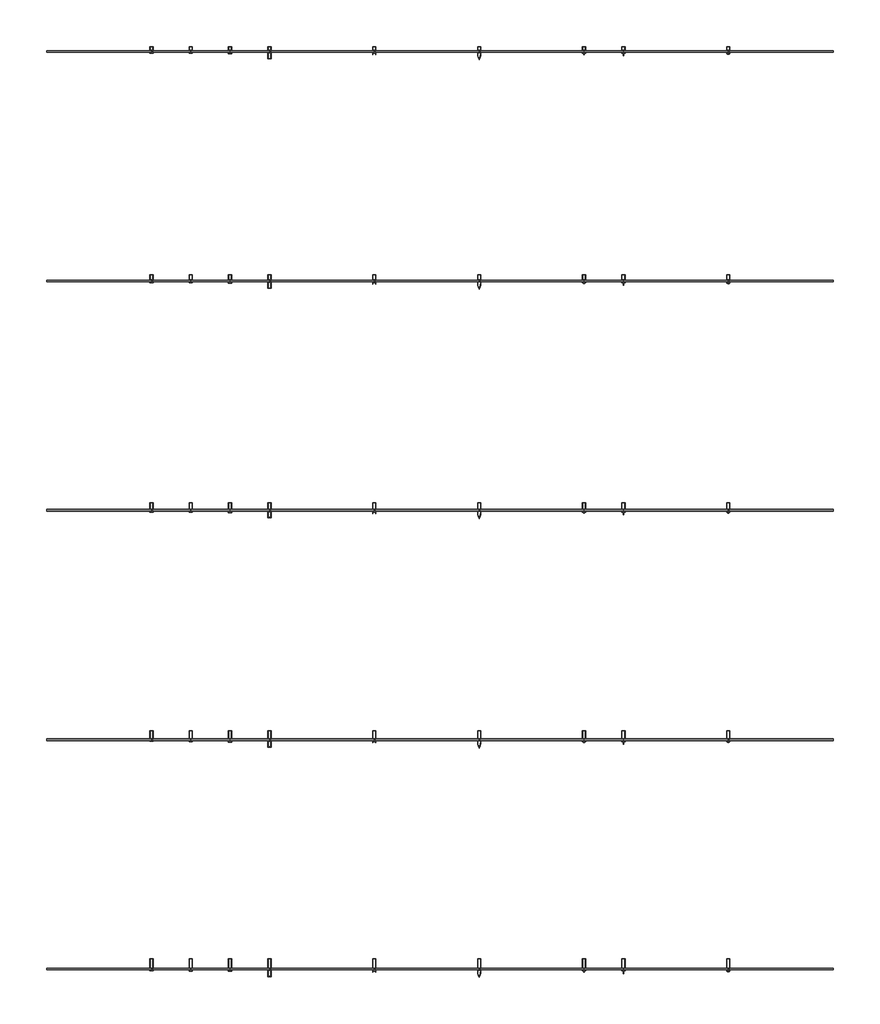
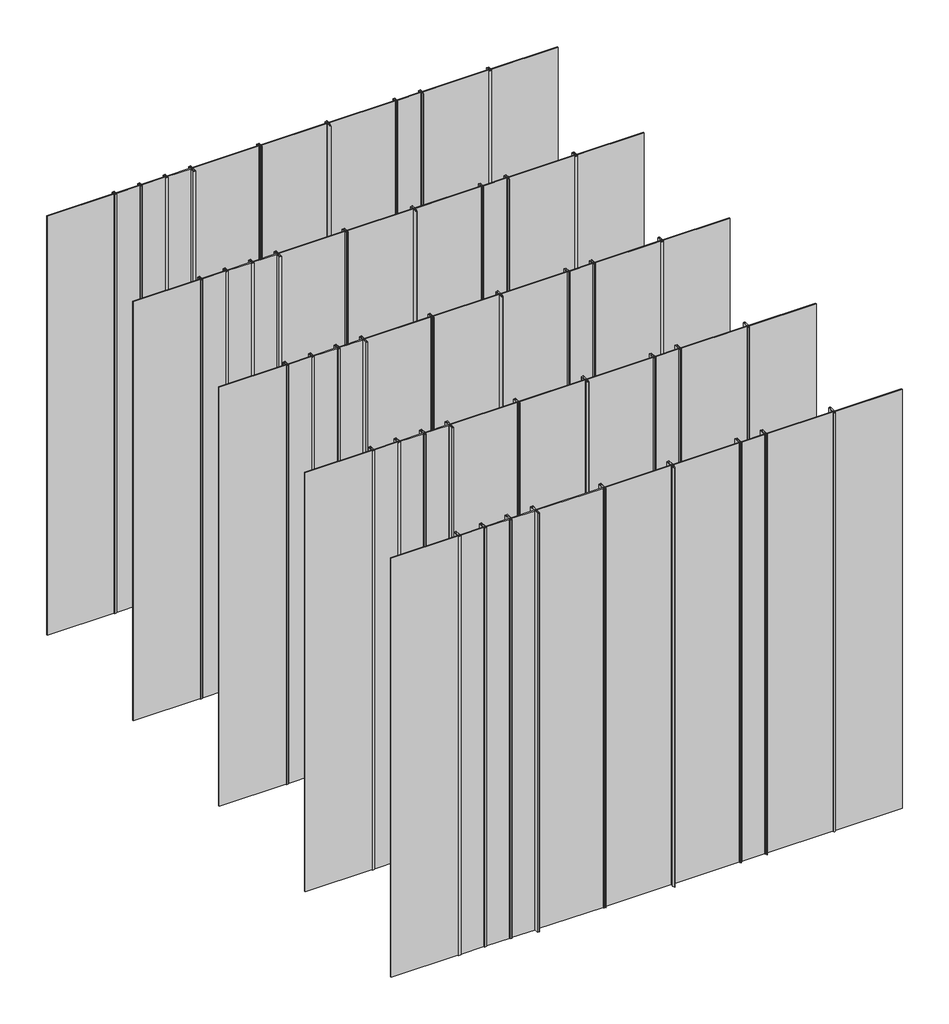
# One storey, part 2 of 4: 50 plates, 45 members.
"""IFC4 building model written with IfcOpenShell, lengths in millimetres."""

from ifc_helpers import new_model, si_unit, origin, place, context, project, spatial, transform, mapped, element, save
from components import rectangular_mullion_7e8ff3de, rectangular_mullion_d2667106, rectangular_mullion_8485e544, rectangular_mullion_a97a1aab, rectangular_mullion_f2acd600, rectangular_mullion_31d17d8e, rectangular_mullion_56021934, rectangular_mullion_2adb346b, rectangular_mullion_2d79f6ae, rectangular_mullion_000f3edf, rectangular_mullion_15fb7f8c, rectangular_mullion_f764ad4b, rectangular_mullion_f35b7cc4, rectangular_mullion_2c5b71e2, rectangular_mullion_228efdd4, rectangular_mullion_fecff039, rectangular_mullion_c5a7c21c, rectangular_mullion_2d95dfcb, rectangular_mullion_cf6c6dc6, rectangular_mullion_39038054, rectangular_mullion_b05ca42d, rectangular_mullion_4120e22d, rectangular_mullion_eb12b059, rectangular_mullion_69731979, rectangular_mullion_d3724085, rectangular_mullion_d1cd4afd, rectangular_mullion_c52cbcee, rectangular_mullion_c6ac059f, rectangular_mullion_fb735a9d, rectangular_mullion_7648b30d, rectangular_mullion_04f7fac3, rectangular_mullion_42f8672c, rectangular_mullion_bbcb7b6a, rectangular_mullion_e76d6326, rectangular_mullion_82755fd9, rectangular_mullion_3a1c682f, rectangular_mullion_3e00aa90, rectangular_mullion_4f774b57, rectangular_mullion_da629653, rectangular_mullion_985fd295, rectangular_mullion_f6d6b2d7, rectangular_mullion_8eb1de87, rectangular_mullion_731bb1fa, rectangular_mullion_f663b6eb, rectangular_mullion_0dbaee4c, system_panel_glazed_5a8f3fa4, system_panel_glazed_dbcdabc9, system_panel_glazed_78f67ebd, system_panel_glazed_138f9669

model = new_model("IFC4")

# Units and contexts
model_context = context("Model", 3, world=origin())
ifc_project = project(units=[si_unit("LENGTHUNIT", "METRE", prefix="MILLI")], contexts=[model_context])

# Site, building, storey
site = spatial("IfcSite", under=ifc_project)
building = spatial("IfcBuilding", under=site)
storey = spatial("IfcBuildingStorey", under=building, Name="REY 01 - Overview Mullions", Elevation=0.0)

# Members
placement = place(None, origin())
rectangular_mullion_shape = rectangular_mullion_7e8ff3de(model_context)
element("IfcMember", 1, ObjectType="Rectangular Mullion : Reynaers_CW-50_Mullion-Transom_Vertical_62.5mm_Facecap-02A", at=placement, inside=storey, context=model_context, shape_type="MappedRepresentation", body=[
    mapped(rectangular_mullion_shape, transform((-14129.591144, -1100.3540011, 0.0), x_axis=(-1.0, 0.0, 0.0), y_axis=(0.0, 1.0, 0.0), z_axis=(0.0, 0.0, -1.0))),
])
rectangular_mullion_2_shape = rectangular_mullion_d2667106(model_context)
element("IfcMember", 2, ObjectType="Rectangular Mullion : Reynaers_CW-50_Mullion-Transom_Vertical_62.5mm_Facecap-02B", at=placement, inside=storey, context=model_context, shape_type="MappedRepresentation", body=[
    mapped(rectangular_mullion_2_shape, transform((-13529.591144, -1100.3540011, 0.0), x_axis=(-1.0, 0.0, 0.0), y_axis=(0.0, 1.0, 0.0), z_axis=(0.0, 0.0, -1.0))),
])
rectangular_mullion_3_shape = rectangular_mullion_8485e544(model_context)
element("IfcMember", 3, ObjectType="Rectangular Mullion : Reynaers_CW-50_Mullion-Transom_Vertical_62.5mm_Facecap-02C", at=placement, inside=storey, context=model_context, shape_type="MappedRepresentation", body=[
    mapped(rectangular_mullion_3_shape, transform((-12929.591144, -1100.3540011, 0.0), x_axis=(-1.0, 0.0, 0.0), y_axis=(0.0, 1.0, 0.0), z_axis=(0.0, 0.0, -1.0))),
])
rectangular_mullion_4_shape = rectangular_mullion_a97a1aab(model_context)
element("IfcMember", 4, ObjectType="Rectangular Mullion : Reynaers_CW-50_Mullion-Transom_Vertical_62.5mm_Facecap-02D", at=placement, inside=storey, context=model_context, shape_type="MappedRepresentation", body=[
    mapped(rectangular_mullion_4_shape, transform((-12329.591144, -1100.3540011, 0.0), x_axis=(-1.0, 0.0, 0.0), y_axis=(0.0, 1.0, 0.0), z_axis=(0.0, 0.0, -1.0))),
])
rectangular_mullion_5_shape = rectangular_mullion_f2acd600(model_context)
element("IfcMember", 5, ObjectType="Rectangular Mullion : Reynaers_CW-50_Mullion-Transom_Vertical_62.5mm_Facecap-03", at=placement, inside=storey, context=model_context, shape_type="MappedRepresentation", body=[
    mapped(rectangular_mullion_5_shape, transform((-10729.591144, -1100.3540011, 0.0), x_axis=(-1.0, 0.0, 0.0), y_axis=(0.0, 1.0, 0.0), z_axis=(0.0, 0.0, -1.0))),
])
rectangular_mullion_6_shape = rectangular_mullion_31d17d8e(model_context)
element("IfcMember", 6, ObjectType="Rectangular Mullion : Reynaers_CW-50_Mullion-Transom_Vertical_62.5mm_Facecap-05", at=placement, inside=storey, context=model_context, shape_type="MappedRepresentation", body=[
    mapped(rectangular_mullion_6_shape, transform((-9129.591144, -1100.3540011, 0.0), x_axis=(-1.0, 0.0, 0.0), y_axis=(0.0, 1.0, 0.0), z_axis=(0.0, 0.0, -1.0))),
])
rectangular_mullion_7_shape = rectangular_mullion_56021934(model_context)
element("IfcMember", 7, ObjectType="Rectangular Mullion : Reynaers_CW-50_Mullion-Transom_Vertical_62.5mm_Facecap-06A", at=placement, inside=storey, context=model_context, shape_type="MappedRepresentation", body=[
    mapped(rectangular_mullion_7_shape, transform((-7529.591144, -1100.3540011, 0.0), x_axis=(-1.0, 0.0, 0.0), y_axis=(0.0, 1.0, 0.0), z_axis=(0.0, 0.0, -1.0))),
])
rectangular_mullion_8_shape = rectangular_mullion_2adb346b(model_context)
element("IfcMember", 8, ObjectType="Rectangular Mullion : Reynaers_CW-50_Mullion-Transom_Vertical_62.5mm_Facecap-06B", at=placement, inside=storey, context=model_context, shape_type="MappedRepresentation", body=[
    mapped(rectangular_mullion_8_shape, transform((-6929.591144, -1100.3540011, 0.0), x_axis=(-1.0, 0.0, 0.0), y_axis=(0.0, 1.0, 0.0), z_axis=(0.0, 0.0, -1.0))),
])
rectangular_mullion_9_shape = rectangular_mullion_2d79f6ae(model_context)
element("IfcMember", 9, ObjectType="Rectangular Mullion : Reynaers_CW-50_Mullion-Transom_Vertical_62.5mm_Facecap-07", at=placement, inside=storey, context=model_context, shape_type="MappedRepresentation", body=[
    mapped(rectangular_mullion_9_shape, transform((-5329.591144, -1100.3540011, 0.0), x_axis=(-1.0, 0.0, 0.0), y_axis=(0.0, 1.0, 0.0), z_axis=(0.0, 0.0, -1.0))),
])
rectangular_mullion_10_shape = rectangular_mullion_000f3edf(model_context)
element("IfcMember", 10, ObjectType="Rectangular Mullion : Reynaers_CW-50_Mullion-Transom_Vertical_83.5mm_Facecap-02A", at=placement, inside=storey, context=model_context, shape_type="MappedRepresentation", body=[
    mapped(rectangular_mullion_10_shape, transform((-14129.591144, -4600.3540011, 0.0), x_axis=(-1.0, 0.0, 0.0), y_axis=(0.0, 1.0, 0.0), z_axis=(0.0, 0.0, -1.0))),
])
rectangular_mullion_11_shape = rectangular_mullion_15fb7f8c(model_context)
element("IfcMember", 11, ObjectType="Rectangular Mullion : Reynaers_CW-50_Mullion-Transom_Vertical_83.5mm_Facecap-02B", at=placement, inside=storey, context=model_context, shape_type="MappedRepresentation", body=[
    mapped(rectangular_mullion_11_shape, transform((-13529.591144, -4600.3540011, 0.0), x_axis=(-1.0, 0.0, 0.0), y_axis=(0.0, 1.0, 0.0), z_axis=(0.0, 0.0, -1.0))),
])
rectangular_mullion_12_shape = rectangular_mullion_f764ad4b(model_context)
element("IfcMember", 12, ObjectType="Rectangular Mullion : Reynaers_CW-50_Mullion-Transom_Vertical_83.5mm_Facecap-02C", at=placement, inside=storey, context=model_context, shape_type="MappedRepresentation", body=[
    mapped(rectangular_mullion_12_shape, transform((-12929.591144, -4600.3540011, 0.0), x_axis=(-1.0, 0.0, 0.0), y_axis=(0.0, 1.0, 0.0), z_axis=(0.0, 0.0, -1.0))),
])
rectangular_mullion_13_shape = rectangular_mullion_f35b7cc4(model_context)
element("IfcMember", 13, ObjectType="Rectangular Mullion : Reynaers_CW-50_Mullion-Transom_Vertical_83.5mm_Facecap-02D", at=placement, inside=storey, context=model_context, shape_type="MappedRepresentation", body=[
    mapped(rectangular_mullion_13_shape, transform((-12329.591144, -4600.3540011, 0.0), x_axis=(-1.0, 0.0, 0.0), y_axis=(0.0, 1.0, 0.0), z_axis=(0.0, 0.0, -1.0))),
])
rectangular_mullion_14_shape = rectangular_mullion_2c5b71e2(model_context)
element("IfcMember", 14, ObjectType="Rectangular Mullion : Reynaers_CW-50_Mullion-Transom_Vertical_83.5mm_Facecap-03", at=placement, inside=storey, context=model_context, shape_type="MappedRepresentation", body=[
    mapped(rectangular_mullion_14_shape, transform((-10729.591144, -4600.3540011, 0.0), x_axis=(-1.0, 0.0, 0.0), y_axis=(0.0, 1.0, 0.0), z_axis=(0.0, 0.0, -1.0))),
])
rectangular_mullion_15_shape = rectangular_mullion_228efdd4(model_context)
element("IfcMember", 15, ObjectType="Rectangular Mullion : Reynaers_CW-50_Mullion-Transom_Vertical_83.5mm_Facecap-05", at=placement, inside=storey, context=model_context, shape_type="MappedRepresentation", body=[
    mapped(rectangular_mullion_15_shape, transform((-9129.591144, -4600.3540011, 0.0), x_axis=(-1.0, 0.0, 0.0), y_axis=(0.0, 1.0, 0.0), z_axis=(0.0, 0.0, -1.0))),
])
rectangular_mullion_16_shape = rectangular_mullion_fecff039(model_context)
element("IfcMember", 16, ObjectType="Rectangular Mullion : Reynaers_CW-50_Mullion-Transom_Vertical_83.5mm_Facecap-06A", at=placement, inside=storey, context=model_context, shape_type="MappedRepresentation", body=[
    mapped(rectangular_mullion_16_shape, transform((-7529.591144, -4600.3540011, 0.0), x_axis=(-1.0, 0.0, 0.0), y_axis=(0.0, 1.0, 0.0), z_axis=(0.0, 0.0, -1.0))),
])
rectangular_mullion_17_shape = rectangular_mullion_c5a7c21c(model_context)
element("IfcMember", 17, ObjectType="Rectangular Mullion : Reynaers_CW-50_Mullion-Transom_Vertical_83.5mm_Facecap-06B", at=placement, inside=storey, context=model_context, shape_type="MappedRepresentation", body=[
    mapped(rectangular_mullion_17_shape, transform((-6929.591144, -4600.3540011, 0.0), x_axis=(-1.0, 0.0, 0.0), y_axis=(0.0, 1.0, 0.0), z_axis=(0.0, 0.0, -1.0))),
])
rectangular_mullion_18_shape = rectangular_mullion_2d95dfcb(model_context)
element("IfcMember", 18, ObjectType="Rectangular Mullion : Reynaers_CW-50_Mullion-Transom_Vertical_83.5mm_Facecap-07", at=placement, inside=storey, context=model_context, shape_type="MappedRepresentation", body=[
    mapped(rectangular_mullion_18_shape, transform((-5329.591144, -4600.3540011, 0.0), x_axis=(-1.0, 0.0, 0.0), y_axis=(0.0, 1.0, 0.0), z_axis=(0.0, 0.0, -1.0))),
])
rectangular_mullion_19_shape = rectangular_mullion_cf6c6dc6(model_context)
element("IfcMember", 19, ObjectType="Rectangular Mullion : Reynaers_CW-50_Mullion-Transom_Vertical_104.5mm_Facecap-02A", at=placement, inside=storey, context=model_context, shape_type="MappedRepresentation", body=[
    mapped(rectangular_mullion_19_shape, transform((-14129.591144, -8100.3540011, 0.0), x_axis=(-1.0, 0.0, 0.0), y_axis=(0.0, 1.0, 0.0), z_axis=(0.0, 0.0, -1.0))),
])
rectangular_mullion_20_shape = rectangular_mullion_39038054(model_context)
element("IfcMember", 20, ObjectType="Rectangular Mullion : Reynaers_CW-50_Mullion-Transom_Vertical_104.5mm_Facecap-02B", at=placement, inside=storey, context=model_context, shape_type="MappedRepresentation", body=[
    mapped(rectangular_mullion_20_shape, transform((-13529.591144, -8100.3540011, 0.0), x_axis=(-1.0, 0.0, 0.0), y_axis=(0.0, 1.0, 0.0), z_axis=(0.0, 0.0, -1.0))),
])
rectangular_mullion_21_shape = rectangular_mullion_b05ca42d(model_context)
element("IfcMember", 21, ObjectType="Rectangular Mullion : Reynaers_CW-50_Mullion-Transom_Vertical_104.5mm_Facecap-02C", at=placement, inside=storey, context=model_context, shape_type="MappedRepresentation", body=[
    mapped(rectangular_mullion_21_shape, transform((-12929.591144, -8100.3540011, 0.0), x_axis=(-1.0, 0.0, 0.0), y_axis=(0.0, 1.0, 0.0), z_axis=(0.0, 0.0, -1.0))),
])
rectangular_mullion_22_shape = rectangular_mullion_4120e22d(model_context)
element("IfcMember", 22, ObjectType="Rectangular Mullion : Reynaers_CW-50_Mullion-Transom_Vertical_104.5mm_Facecap-02D", at=placement, inside=storey, context=model_context, shape_type="MappedRepresentation", body=[
    mapped(rectangular_mullion_22_shape, transform((-12329.591144, -8100.3540011, 0.0), x_axis=(-1.0, 0.0, 0.0), y_axis=(0.0, 1.0, 0.0), z_axis=(0.0, 0.0, -1.0))),
])
rectangular_mullion_23_shape = rectangular_mullion_eb12b059(model_context)
element("IfcMember", 23, ObjectType="Rectangular Mullion : Reynaers_CW-50_Mullion-Transom_Vertical_104.5mm_Facecap-03", at=placement, inside=storey, context=model_context, shape_type="MappedRepresentation", body=[
    mapped(rectangular_mullion_23_shape, transform((-10729.591144, -8100.3540011, 0.0), x_axis=(-1.0, 0.0, 0.0), y_axis=(0.0, 1.0, 0.0), z_axis=(0.0, 0.0, -1.0))),
])
rectangular_mullion_24_shape = rectangular_mullion_69731979(model_context)
element("IfcMember", 24, ObjectType="Rectangular Mullion : Reynaers_CW-50_Mullion-Transom_Vertical_104.5mm_Facecap-05", at=placement, inside=storey, context=model_context, shape_type="MappedRepresentation", body=[
    mapped(rectangular_mullion_24_shape, transform((-9129.591144, -8100.3540011, 0.0), x_axis=(-1.0, 0.0, 0.0), y_axis=(0.0, 1.0, 0.0), z_axis=(0.0, 0.0, -1.0))),
])
rectangular_mullion_25_shape = rectangular_mullion_d3724085(model_context)
element("IfcMember", 25, ObjectType="Rectangular Mullion : Reynaers_CW-50_Mullion-Transom_Vertical_104.5mm_Facecap-06A", at=placement, inside=storey, context=model_context, shape_type="MappedRepresentation", body=[
    mapped(rectangular_mullion_25_shape, transform((-7529.591144, -8100.3540011, 0.0), x_axis=(-1.0, 0.0, 0.0), y_axis=(0.0, 1.0, 0.0), z_axis=(0.0, 0.0, -1.0))),
])
rectangular_mullion_26_shape = rectangular_mullion_d1cd4afd(model_context)
element("IfcMember", 26, ObjectType="Rectangular Mullion : Reynaers_CW-50_Mullion-Transom_Vertical_104.5mm_Facecap-06B", at=placement, inside=storey, context=model_context, shape_type="MappedRepresentation", body=[
    mapped(rectangular_mullion_26_shape, transform((-6929.591144, -8100.3540011, 0.0), x_axis=(-1.0, 0.0, 0.0), y_axis=(0.0, 1.0, 0.0), z_axis=(0.0, 0.0, -1.0))),
])
rectangular_mullion_27_shape = rectangular_mullion_c52cbcee(model_context)
element("IfcMember", 27, ObjectType="Rectangular Mullion : Reynaers_CW-50_Mullion-Transom_Vertical_104.5mm_Facecap-07", at=placement, inside=storey, context=model_context, shape_type="MappedRepresentation", body=[
    mapped(rectangular_mullion_27_shape, transform((-5329.591144, -8100.3540011, 0.0), x_axis=(-1.0, 0.0, 0.0), y_axis=(0.0, 1.0, 0.0), z_axis=(0.0, 0.0, -1.0))),
])
rectangular_mullion_28_shape = rectangular_mullion_c6ac059f(model_context)
element("IfcMember", 28, ObjectType="Rectangular Mullion : Reynaers_CW-50_Mullion-Transom_Vertical_125.5mm_Facecap-02A", at=placement, inside=storey, context=model_context, shape_type="MappedRepresentation", body=[
    mapped(rectangular_mullion_28_shape, transform((-14129.591144, -11600.3540011, 0.0), x_axis=(-1.0, 0.0, 0.0), y_axis=(0.0, 1.0, 0.0), z_axis=(0.0, 0.0, -1.0))),
])
rectangular_mullion_29_shape = rectangular_mullion_fb735a9d(model_context)
element("IfcMember", 29, ObjectType="Rectangular Mullion : Reynaers_CW-50_Mullion-Transom_Vertical_125.5mm_Facecap-02B", at=placement, inside=storey, context=model_context, shape_type="MappedRepresentation", body=[
    mapped(rectangular_mullion_29_shape, transform((-13529.591144, -11600.3540011, 0.0), x_axis=(-1.0, 0.0, 0.0), y_axis=(0.0, 1.0, 0.0), z_axis=(0.0, 0.0, -1.0))),
])
rectangular_mullion_30_shape = rectangular_mullion_7648b30d(model_context)
element("IfcMember", 30, ObjectType="Rectangular Mullion : Reynaers_CW-50_Mullion-Transom_Vertical_125.5mm_Facecap-02C", at=placement, inside=storey, context=model_context, shape_type="MappedRepresentation", body=[
    mapped(rectangular_mullion_30_shape, transform((-12929.591144, -11600.3540011, 0.0), x_axis=(-1.0, 0.0, 0.0), y_axis=(0.0, 1.0, 0.0), z_axis=(0.0, 0.0, -1.0))),
])
rectangular_mullion_31_shape = rectangular_mullion_04f7fac3(model_context)
element("IfcMember", 31, ObjectType="Rectangular Mullion : Reynaers_CW-50_Mullion-Transom_Vertical_125.5mm_Facecap-02D", at=placement, inside=storey, context=model_context, shape_type="MappedRepresentation", body=[
    mapped(rectangular_mullion_31_shape, transform((-12329.591144, -11600.3540011, 0.0), x_axis=(-1.0, 0.0, 0.0), y_axis=(0.0, 1.0, 0.0), z_axis=(0.0, 0.0, -1.0))),
])
rectangular_mullion_32_shape = rectangular_mullion_42f8672c(model_context)
element("IfcMember", 32, ObjectType="Rectangular Mullion : Reynaers_CW-50_Mullion-Transom_Vertical_125.5mm_Facecap-03", at=placement, inside=storey, context=model_context, shape_type="MappedRepresentation", body=[
    mapped(rectangular_mullion_32_shape, transform((-10729.591144, -11600.3540011, 0.0), x_axis=(-1.0, 0.0, 0.0), y_axis=(0.0, 1.0, 0.0), z_axis=(0.0, 0.0, -1.0))),
])
rectangular_mullion_33_shape = rectangular_mullion_bbcb7b6a(model_context)
element("IfcMember", 33, ObjectType="Rectangular Mullion : Reynaers_CW-50_Mullion-Transom_Vertical_125.5mm_Facecap-05", at=placement, inside=storey, context=model_context, shape_type="MappedRepresentation", body=[
    mapped(rectangular_mullion_33_shape, transform((-9129.591144, -11600.3540011, 0.0), x_axis=(-1.0, 0.0, 0.0), y_axis=(0.0, 1.0, 0.0), z_axis=(0.0, 0.0, -1.0))),
])
rectangular_mullion_34_shape = rectangular_mullion_e76d6326(model_context)
element("IfcMember", 34, ObjectType="Rectangular Mullion : Reynaers_CW-50_Mullion-Transom_Vertical_125.5mm_Facecap-06A", at=placement, inside=storey, context=model_context, shape_type="MappedRepresentation", body=[
    mapped(rectangular_mullion_34_shape, transform((-7529.591144, -11600.3540011, 0.0), x_axis=(-1.0, 0.0, 0.0), y_axis=(0.0, 1.0, 0.0), z_axis=(0.0, 0.0, -1.0))),
])
rectangular_mullion_35_shape = rectangular_mullion_82755fd9(model_context)
element("IfcMember", 35, ObjectType="Rectangular Mullion : Reynaers_CW-50_Mullion-Transom_Vertical_125.5mm_Facecap-06B", at=placement, inside=storey, context=model_context, shape_type="MappedRepresentation", body=[
    mapped(rectangular_mullion_35_shape, transform((-6929.591144, -11600.3540011, 0.0), x_axis=(-1.0, 0.0, 0.0), y_axis=(0.0, 1.0, 0.0), z_axis=(0.0, 0.0, -1.0))),
])
rectangular_mullion_36_shape = rectangular_mullion_3a1c682f(model_context)
element("IfcMember", 36, ObjectType="Rectangular Mullion : Reynaers_CW-50_Mullion-Transom_Vertical_125.5mm_Facecap-07", at=placement, inside=storey, context=model_context, shape_type="MappedRepresentation", body=[
    mapped(rectangular_mullion_36_shape, transform((-5329.591144, -11600.3540011, 0.0), x_axis=(-1.0, 0.0, 0.0), y_axis=(0.0, 1.0, 0.0), z_axis=(0.0, 0.0, -1.0))),
])
rectangular_mullion_37_shape = rectangular_mullion_3e00aa90(model_context)
element("IfcMember", 37, ObjectType="Rectangular Mullion : Reynaers_CW-50_Mullion-Transom_Vertical_146.5mm_Facecap-02A", at=placement, inside=storey, context=model_context, shape_type="MappedRepresentation", body=[
    mapped(rectangular_mullion_37_shape, transform((-14129.591144, -15100.3540011, 0.0), x_axis=(-1.0, 0.0, 0.0), y_axis=(0.0, 1.0, 0.0), z_axis=(0.0, 0.0, -1.0))),
])
rectangular_mullion_38_shape = rectangular_mullion_4f774b57(model_context)
element("IfcMember", 38, ObjectType="Rectangular Mullion : Reynaers_CW-50_Mullion-Transom_Vertical_146.5mm_Facecap-02B", at=placement, inside=storey, context=model_context, shape_type="MappedRepresentation", body=[
    mapped(rectangular_mullion_38_shape, transform((-13529.591144, -15100.3540011, 0.0), x_axis=(-1.0, 0.0, 0.0), y_axis=(0.0, 1.0, 0.0), z_axis=(0.0, 0.0, -1.0))),
])
rectangular_mullion_39_shape = rectangular_mullion_da629653(model_context)
element("IfcMember", 39, ObjectType="Rectangular Mullion : Reynaers_CW-50_Mullion-Transom_Vertical_146.5mm_Facecap-02C", at=placement, inside=storey, context=model_context, shape_type="MappedRepresentation", body=[
    mapped(rectangular_mullion_39_shape, transform((-12929.591144, -15100.3540011, 0.0), x_axis=(-1.0, 0.0, 0.0), y_axis=(0.0, 1.0, 0.0), z_axis=(0.0, 0.0, -1.0))),
])
rectangular_mullion_40_shape = rectangular_mullion_985fd295(model_context)
element("IfcMember", 40, ObjectType="Rectangular Mullion : Reynaers_CW-50_Mullion-Transom_Vertical_146.5mm_Facecap-02D", at=placement, inside=storey, context=model_context, shape_type="MappedRepresentation", body=[
    mapped(rectangular_mullion_40_shape, transform((-12329.591144, -15100.3540011, 0.0), x_axis=(-1.0, 0.0, 0.0), y_axis=(0.0, 1.0, 0.0), z_axis=(0.0, 0.0, -1.0))),
])
rectangular_mullion_41_shape = rectangular_mullion_f6d6b2d7(model_context)
element("IfcMember", 41, ObjectType="Rectangular Mullion : Reynaers_CW-50_Mullion-Transom_Vertical_146.5mm_Facecap-03", at=placement, inside=storey, context=model_context, shape_type="MappedRepresentation", body=[
    mapped(rectangular_mullion_41_shape, transform((-10729.591144, -15100.3540011, 0.0), x_axis=(-1.0, 0.0, 0.0), y_axis=(0.0, 1.0, 0.0), z_axis=(0.0, 0.0, -1.0))),
])
rectangular_mullion_42_shape = rectangular_mullion_8eb1de87(model_context)
element("IfcMember", 42, ObjectType="Rectangular Mullion : Reynaers_CW-50_Mullion-Transom_Vertical_146.5mm_Facecap-05", at=placement, inside=storey, context=model_context, shape_type="MappedRepresentation", body=[
    mapped(rectangular_mullion_42_shape, transform((-9129.591144, -15100.3540011, 0.0), x_axis=(-1.0, 0.0, 0.0), y_axis=(0.0, 1.0, 0.0), z_axis=(0.0, 0.0, -1.0))),
])
rectangular_mullion_43_shape = rectangular_mullion_731bb1fa(model_context)
element("IfcMember", 43, ObjectType="Rectangular Mullion : Reynaers_CW-50_Mullion-Transom_Vertical_146.5mm_Facecap-06A", at=placement, inside=storey, context=model_context, shape_type="MappedRepresentation", body=[
    mapped(rectangular_mullion_43_shape, transform((-7529.591144, -15100.3540011, 0.0), x_axis=(-1.0, 0.0, 0.0), y_axis=(0.0, 1.0, 0.0), z_axis=(0.0, 0.0, -1.0))),
])
rectangular_mullion_44_shape = rectangular_mullion_f663b6eb(model_context)
element("IfcMember", 44, ObjectType="Rectangular Mullion : Reynaers_CW-50_Mullion-Transom_Vertical_146.5mm_Facecap-06B", at=placement, inside=storey, context=model_context, shape_type="MappedRepresentation", body=[
    mapped(rectangular_mullion_44_shape, transform((-6929.591144, -15100.3540011, 0.0), x_axis=(-1.0, 0.0, 0.0), y_axis=(0.0, 1.0, 0.0), z_axis=(0.0, 0.0, -1.0))),
])
rectangular_mullion_45_shape = rectangular_mullion_0dbaee4c(model_context)
element("IfcMember", 45, ObjectType="Rectangular Mullion : Reynaers_CW-50_Mullion-Transom_Vertical_146.5mm_Facecap-07", at=placement, inside=storey, context=model_context, shape_type="MappedRepresentation", body=[
    mapped(rectangular_mullion_45_shape, transform((-5329.591144, -15100.3540011, 0.0), x_axis=(-1.0, 0.0, 0.0), y_axis=(0.0, 1.0, 0.0), z_axis=(0.0, 0.0, -1.0))),
])

# Plates
system_panel_glazed_shape = system_panel_glazed_5a8f3fa4(model_context)
element("IfcPlate", 46, ObjectType="System Panel : Glazed", at=placement, inside=storey, context=model_context, shape_type="MappedRepresentation", body=[
    mapped(system_panel_glazed_shape, transform((-4527.140941, -1100.3540011, 0.0), x_axis=(-1.0, 0.0, 0.0), y_axis=(0.0, -1.0, 0.0), z_axis=(0.0, 0.0, 1.0))),
])
element("IfcPlate", 47, ObjectType="System Panel : Glazed", at=placement, inside=storey, context=model_context, shape_type="MappedRepresentation", body=[
    mapped(system_panel_glazed_shape, transform((-4527.140941, -4600.3540011, 0.0), x_axis=(-1.0, 0.0, 0.0), y_axis=(0.0, -1.0, 0.0), z_axis=(0.0, 0.0, 1.0))),
])
element("IfcPlate", 48, ObjectType="System Panel : Glazed", at=placement, inside=storey, context=model_context, shape_type="MappedRepresentation", body=[
    mapped(system_panel_glazed_shape, transform((-4527.140941, -8100.3540011, 0.0), x_axis=(-1.0, 0.0, 0.0), y_axis=(0.0, -1.0, 0.0), z_axis=(0.0, 0.0, 1.0))),
])
element("IfcPlate", 49, ObjectType="System Panel : Glazed", at=placement, inside=storey, context=model_context, shape_type="MappedRepresentation", body=[
    mapped(system_panel_glazed_shape, transform((-4527.140941, -11600.3540011, 0.0), x_axis=(-1.0, 0.0, 0.0), y_axis=(0.0, -1.0, 0.0), z_axis=(0.0, 0.0, 1.0))),
])
element("IfcPlate", 50, ObjectType="System Panel : Glazed", at=placement, inside=storey, context=model_context, shape_type="MappedRepresentation", body=[
    mapped(system_panel_glazed_shape, transform((-4527.140941, -15100.3540011, 0.0), x_axis=(-1.0, 0.0, 0.0), y_axis=(0.0, -1.0, 0.0), z_axis=(0.0, 0.0, 1.0))),
])
system_panel_glazed_2_shape = system_panel_glazed_dbcdabc9(model_context)
element("IfcPlate", 51, ObjectType="System Panel : Glazed", at=placement, inside=storey, context=model_context, shape_type="MappedRepresentation", body=[
    mapped(system_panel_glazed_2_shape, transform((-14932.240941, -1100.3540011, 0.0), x_axis=(-1.0, 0.0, 0.0), y_axis=(0.0, -1.0, 0.0), z_axis=(0.0, 0.0, 1.0))),
])
element("IfcPlate", 52, ObjectType="System Panel : Glazed", at=placement, inside=storey, context=model_context, shape_type="MappedRepresentation", body=[
    mapped(system_panel_glazed_2_shape, transform((-14932.240941, -4600.3540011, 0.0), x_axis=(-1.0, 0.0, 0.0), y_axis=(0.0, -1.0, 0.0), z_axis=(0.0, 0.0, 1.0))),
])
element("IfcPlate", 53, ObjectType="System Panel : Glazed", at=placement, inside=storey, context=model_context, shape_type="MappedRepresentation", body=[
    mapped(system_panel_glazed_2_shape, transform((-14932.240941, -8100.3540011, 0.0), x_axis=(-1.0, 0.0, 0.0), y_axis=(0.0, -1.0, 0.0), z_axis=(0.0, 0.0, 1.0))),
])
element("IfcPlate", 54, ObjectType="System Panel : Glazed", at=placement, inside=storey, context=model_context, shape_type="MappedRepresentation", body=[
    mapped(system_panel_glazed_2_shape, transform((-14932.240941, -11600.3540011, 0.0), x_axis=(-1.0, 0.0, 0.0), y_axis=(0.0, -1.0, 0.0), z_axis=(0.0, 0.0, 1.0))),
])
element("IfcPlate", 55, ObjectType="System Panel : Glazed", at=placement, inside=storey, context=model_context, shape_type="MappedRepresentation", body=[
    mapped(system_panel_glazed_2_shape, transform((-14932.240941, -15100.3540011, 0.0), x_axis=(-1.0, 0.0, 0.0), y_axis=(0.0, -1.0, 0.0), z_axis=(0.0, 0.0, 1.0))),
])
system_panel_glazed_3_shape = system_panel_glazed_78f67ebd(model_context)
element("IfcPlate", 56, ObjectType="System Panel : Glazed", at=placement, inside=storey, context=model_context, shape_type="MappedRepresentation", body=[
    mapped(system_panel_glazed_3_shape, transform((-6129.7907381, -1100.3540011, 0.0), x_axis=(-1.0, 0.0, 0.0), y_axis=(0.0, -1.0, 0.0), z_axis=(0.0, 0.0, 1.0))),
])
element("IfcPlate", 57, ObjectType="System Panel : Glazed", at=placement, inside=storey, context=model_context, shape_type="MappedRepresentation", body=[
    mapped(system_panel_glazed_3_shape, transform((-8329.7907381, -1100.3540011, 0.0), x_axis=(-1.0, 0.0, 0.0), y_axis=(0.0, -1.0, 0.0), z_axis=(0.0, 0.0, 1.0))),
])
element("IfcPlate", 58, ObjectType="System Panel : Glazed", at=placement, inside=storey, context=model_context, shape_type="MappedRepresentation", body=[
    mapped(system_panel_glazed_3_shape, transform((-9929.7907381, -1100.3540011, 0.0), x_axis=(-1.0, 0.0, 0.0), y_axis=(0.0, -1.0, 0.0), z_axis=(0.0, 0.0, 1.0))),
])
element("IfcPlate", 59, ObjectType="System Panel : Glazed", at=placement, inside=storey, context=model_context, shape_type="MappedRepresentation", body=[
    mapped(system_panel_glazed_3_shape, transform((-11529.7907381, -1100.3540011, 0.0), x_axis=(-1.0, 0.0, 0.0), y_axis=(0.0, -1.0, 0.0), z_axis=(0.0, 0.0, 1.0))),
])
element("IfcPlate", 60, ObjectType="System Panel : Glazed", at=placement, inside=storey, context=model_context, shape_type="MappedRepresentation", body=[
    mapped(system_panel_glazed_3_shape, transform((-6129.7907381, -4600.3540011, 0.0), x_axis=(-1.0, 0.0, 0.0), y_axis=(0.0, -1.0, 0.0), z_axis=(0.0, 0.0, 1.0))),
])
element("IfcPlate", 61, ObjectType="System Panel : Glazed", at=placement, inside=storey, context=model_context, shape_type="MappedRepresentation", body=[
    mapped(system_panel_glazed_3_shape, transform((-8329.7907381, -4600.3540011, 0.0), x_axis=(-1.0, 0.0, 0.0), y_axis=(0.0, -1.0, 0.0), z_axis=(0.0, 0.0, 1.0))),
])
element("IfcPlate", 62, ObjectType="System Panel : Glazed", at=placement, inside=storey, context=model_context, shape_type="MappedRepresentation", body=[
    mapped(system_panel_glazed_3_shape, transform((-9929.7907381, -4600.3540011, 0.0), x_axis=(-1.0, 0.0, 0.0), y_axis=(0.0, -1.0, 0.0), z_axis=(0.0, 0.0, 1.0))),
])
element("IfcPlate", 63, ObjectType="System Panel : Glazed", at=placement, inside=storey, context=model_context, shape_type="MappedRepresentation", body=[
    mapped(system_panel_glazed_3_shape, transform((-11529.7907381, -4600.3540011, 0.0), x_axis=(-1.0, 0.0, 0.0), y_axis=(0.0, -1.0, 0.0), z_axis=(0.0, 0.0, 1.0))),
])
element("IfcPlate", 64, ObjectType="System Panel : Glazed", at=placement, inside=storey, context=model_context, shape_type="MappedRepresentation", body=[
    mapped(system_panel_glazed_3_shape, transform((-6129.7907381, -8100.3540011, 0.0), x_axis=(-1.0, 0.0, 0.0), y_axis=(0.0, -1.0, 0.0), z_axis=(0.0, 0.0, 1.0))),
])
element("IfcPlate", 65, ObjectType="System Panel : Glazed", at=placement, inside=storey, context=model_context, shape_type="MappedRepresentation", body=[
    mapped(system_panel_glazed_3_shape, transform((-8329.7907381, -8100.3540011, 0.0), x_axis=(-1.0, 0.0, 0.0), y_axis=(0.0, -1.0, 0.0), z_axis=(0.0, 0.0, 1.0))),
])
element("IfcPlate", 66, ObjectType="System Panel : Glazed", at=placement, inside=storey, context=model_context, shape_type="MappedRepresentation", body=[
    mapped(system_panel_glazed_3_shape, transform((-9929.7907381, -8100.3540011, 0.0), x_axis=(-1.0, 0.0, 0.0), y_axis=(0.0, -1.0, 0.0), z_axis=(0.0, 0.0, 1.0))),
])
element("IfcPlate", 67, ObjectType="System Panel : Glazed", at=placement, inside=storey, context=model_context, shape_type="MappedRepresentation", body=[
    mapped(system_panel_glazed_3_shape, transform((-11529.7907381, -8100.3540011, 0.0), x_axis=(-1.0, 0.0, 0.0), y_axis=(0.0, -1.0, 0.0), z_axis=(0.0, 0.0, 1.0))),
])
element("IfcPlate", 68, ObjectType="System Panel : Glazed", at=placement, inside=storey, context=model_context, shape_type="MappedRepresentation", body=[
    mapped(system_panel_glazed_3_shape, transform((-6129.7907381, -11600.3540011, 0.0), x_axis=(-1.0, 0.0, 0.0), y_axis=(0.0, -1.0, 0.0), z_axis=(0.0, 0.0, 1.0))),
])
element("IfcPlate", 69, ObjectType="System Panel : Glazed", at=placement, inside=storey, context=model_context, shape_type="MappedRepresentation", body=[
    mapped(system_panel_glazed_3_shape, transform((-8329.7907381, -11600.3540011, 0.0), x_axis=(-1.0, 0.0, 0.0), y_axis=(0.0, -1.0, 0.0), z_axis=(0.0, 0.0, 1.0))),
])
element("IfcPlate", 70, ObjectType="System Panel : Glazed", at=placement, inside=storey, context=model_context, shape_type="MappedRepresentation", body=[
    mapped(system_panel_glazed_3_shape, transform((-9929.7907381, -11600.3540011, 0.0), x_axis=(-1.0, 0.0, 0.0), y_axis=(0.0, -1.0, 0.0), z_axis=(0.0, 0.0, 1.0))),
])
element("IfcPlate", 71, ObjectType="System Panel : Glazed", at=placement, inside=storey, context=model_context, shape_type="MappedRepresentation", body=[
    mapped(system_panel_glazed_3_shape, transform((-11529.7907381, -11600.3540011, 0.0), x_axis=(-1.0, 0.0, 0.0), y_axis=(0.0, -1.0, 0.0), z_axis=(0.0, 0.0, 1.0))),
])
element("IfcPlate", 72, ObjectType="System Panel : Glazed", at=placement, inside=storey, context=model_context, shape_type="MappedRepresentation", body=[
    mapped(system_panel_glazed_3_shape, transform((-6129.7907381, -15100.3540011, 0.0), x_axis=(-1.0, 0.0, 0.0), y_axis=(0.0, -1.0, 0.0), z_axis=(0.0, 0.0, 1.0))),
])
element("IfcPlate", 73, ObjectType="System Panel : Glazed", at=placement, inside=storey, context=model_context, shape_type="MappedRepresentation", body=[
    mapped(system_panel_glazed_3_shape, transform((-8329.7907381, -15100.3540011, 0.0), x_axis=(-1.0, 0.0, 0.0), y_axis=(0.0, -1.0, 0.0), z_axis=(0.0, 0.0, 1.0))),
])
element("IfcPlate", 74, ObjectType="System Panel : Glazed", at=placement, inside=storey, context=model_context, shape_type="MappedRepresentation", body=[
    mapped(system_panel_glazed_3_shape, transform((-9929.7907381, -15100.3540011, 0.0), x_axis=(-1.0, 0.0, 0.0), y_axis=(0.0, -1.0, 0.0), z_axis=(0.0, 0.0, 1.0))),
])
element("IfcPlate", 75, ObjectType="System Panel : Glazed", at=placement, inside=storey, context=model_context, shape_type="MappedRepresentation", body=[
    mapped(system_panel_glazed_3_shape, transform((-11529.7907381, -15100.3540011, 0.0), x_axis=(-1.0, 0.0, 0.0), y_axis=(0.0, -1.0, 0.0), z_axis=(0.0, 0.0, 1.0))),
])
system_panel_glazed_4_shape = system_panel_glazed_138f9669(model_context)
element("IfcPlate", 76, ObjectType="System Panel : Glazed", at=placement, inside=storey, context=model_context, shape_type="MappedRepresentation", body=[
    mapped(system_panel_glazed_4_shape, transform((-7229.7907381, -1100.3540011, 0.0), x_axis=(-1.0, 0.0, 0.0), y_axis=(0.0, -1.0, 0.0), z_axis=(0.0, 0.0, 1.0))),
])
element("IfcPlate", 77, ObjectType="System Panel : Glazed", at=placement, inside=storey, context=model_context, shape_type="MappedRepresentation", body=[
    mapped(system_panel_glazed_4_shape, transform((-13829.7907381, -1100.3540011, 0.0), x_axis=(-1.0, 0.0, 0.0), y_axis=(0.0, -1.0, 0.0), z_axis=(0.0, 0.0, 1.0))),
])
element("IfcPlate", 78, ObjectType="System Panel : Glazed", at=placement, inside=storey, context=model_context, shape_type="MappedRepresentation", body=[
    mapped(system_panel_glazed_4_shape, transform((-13229.7907381, -1100.3540011, 0.0), x_axis=(-1.0, 0.0, 0.0), y_axis=(0.0, -1.0, 0.0), z_axis=(0.0, 0.0, 1.0))),
])
element("IfcPlate", 79, ObjectType="System Panel : Glazed", at=placement, inside=storey, context=model_context, shape_type="MappedRepresentation", body=[
    mapped(system_panel_glazed_4_shape, transform((-12629.7907381, -1100.3540011, 0.0), x_axis=(-1.0, 0.0, 0.0), y_axis=(0.0, -1.0, 0.0), z_axis=(0.0, 0.0, 1.0))),
])
element("IfcPlate", 80, ObjectType="System Panel : Glazed", at=placement, inside=storey, context=model_context, shape_type="MappedRepresentation", body=[
    mapped(system_panel_glazed_4_shape, transform((-7229.7907381, -4600.3540011, 0.0), x_axis=(-1.0, 0.0, 0.0), y_axis=(0.0, -1.0, 0.0), z_axis=(0.0, 0.0, 1.0))),
])
element("IfcPlate", 81, ObjectType="System Panel : Glazed", at=placement, inside=storey, context=model_context, shape_type="MappedRepresentation", body=[
    mapped(system_panel_glazed_4_shape, transform((-13829.7907381, -4600.3540011, 0.0), x_axis=(-1.0, 0.0, 0.0), y_axis=(0.0, -1.0, 0.0), z_axis=(0.0, 0.0, 1.0))),
])
element("IfcPlate", 82, ObjectType="System Panel : Glazed", at=placement, inside=storey, context=model_context, shape_type="MappedRepresentation", body=[
    mapped(system_panel_glazed_4_shape, transform((-13229.7907381, -4600.3540011, 0.0), x_axis=(-1.0, 0.0, 0.0), y_axis=(0.0, -1.0, 0.0), z_axis=(0.0, 0.0, 1.0))),
])
element("IfcPlate", 83, ObjectType="System Panel : Glazed", at=placement, inside=storey, context=model_context, shape_type="MappedRepresentation", body=[
    mapped(system_panel_glazed_4_shape, transform((-12629.7907381, -4600.3540011, 0.0), x_axis=(-1.0, 0.0, 0.0), y_axis=(0.0, -1.0, 0.0), z_axis=(0.0, 0.0, 1.0))),
])
element("IfcPlate", 84, ObjectType="System Panel : Glazed", at=placement, inside=storey, context=model_context, shape_type="MappedRepresentation", body=[
    mapped(system_panel_glazed_4_shape, transform((-7229.7907381, -8100.3540011, 0.0), x_axis=(-1.0, 0.0, 0.0), y_axis=(0.0, -1.0, 0.0), z_axis=(0.0, 0.0, 1.0))),
])
element("IfcPlate", 85, ObjectType="System Panel : Glazed", at=placement, inside=storey, context=model_context, shape_type="MappedRepresentation", body=[
    mapped(system_panel_glazed_4_shape, transform((-13829.7907381, -8100.3540011, 0.0), x_axis=(-1.0, 0.0, 0.0), y_axis=(0.0, -1.0, 0.0), z_axis=(0.0, 0.0, 1.0))),
])
element("IfcPlate", 86, ObjectType="System Panel : Glazed", at=placement, inside=storey, context=model_context, shape_type="MappedRepresentation", body=[
    mapped(system_panel_glazed_4_shape, transform((-13229.7907381, -8100.3540011, 0.0), x_axis=(-1.0, 0.0, 0.0), y_axis=(0.0, -1.0, 0.0), z_axis=(0.0, 0.0, 1.0))),
])
element("IfcPlate", 87, ObjectType="System Panel : Glazed", at=placement, inside=storey, context=model_context, shape_type="MappedRepresentation", body=[
    mapped(system_panel_glazed_4_shape, transform((-12629.7907381, -8100.3540011, 0.0), x_axis=(-1.0, 0.0, 0.0), y_axis=(0.0, -1.0, 0.0), z_axis=(0.0, 0.0, 1.0))),
])
element("IfcPlate", 88, ObjectType="System Panel : Glazed", at=placement, inside=storey, context=model_context, shape_type="MappedRepresentation", body=[
    mapped(system_panel_glazed_4_shape, transform((-7229.7907381, -11600.3540011, 0.0), x_axis=(-1.0, 0.0, 0.0), y_axis=(0.0, -1.0, 0.0), z_axis=(0.0, 0.0, 1.0))),
])
element("IfcPlate", 89, ObjectType="System Panel : Glazed", at=placement, inside=storey, context=model_context, shape_type="MappedRepresentation", body=[
    mapped(system_panel_glazed_4_shape, transform((-13829.7907381, -11600.3540011, 0.0), x_axis=(-1.0, 0.0, 0.0), y_axis=(0.0, -1.0, 0.0), z_axis=(0.0, 0.0, 1.0))),
])
element("IfcPlate", 90, ObjectType="System Panel : Glazed", at=placement, inside=storey, context=model_context, shape_type="MappedRepresentation", body=[
    mapped(system_panel_glazed_4_shape, transform((-13229.7907381, -11600.3540011, 0.0), x_axis=(-1.0, 0.0, 0.0), y_axis=(0.0, -1.0, 0.0), z_axis=(0.0, 0.0, 1.0))),
])
element("IfcPlate", 91, ObjectType="System Panel : Glazed", at=placement, inside=storey, context=model_context, shape_type="MappedRepresentation", body=[
    mapped(system_panel_glazed_4_shape, transform((-12629.7907381, -11600.3540011, 0.0), x_axis=(-1.0, 0.0, 0.0), y_axis=(0.0, -1.0, 0.0), z_axis=(0.0, 0.0, 1.0))),
])
element("IfcPlate", 92, ObjectType="System Panel : Glazed", at=placement, inside=storey, context=model_context, shape_type="MappedRepresentation", body=[
    mapped(system_panel_glazed_4_shape, transform((-7229.7907381, -15100.3540011, 0.0), x_axis=(-1.0, 0.0, 0.0), y_axis=(0.0, -1.0, 0.0), z_axis=(0.0, 0.0, 1.0))),
])
element("IfcPlate", 93, ObjectType="System Panel : Glazed", at=placement, inside=storey, context=model_context, shape_type="MappedRepresentation", body=[
    mapped(system_panel_glazed_4_shape, transform((-13829.7907381, -15100.3540011, 0.0), x_axis=(-1.0, 0.0, 0.0), y_axis=(0.0, -1.0, 0.0), z_axis=(0.0, 0.0, 1.0))),
])
element("IfcPlate", 94, ObjectType="System Panel : Glazed", at=placement, inside=storey, context=model_context, shape_type="MappedRepresentation", body=[
    mapped(system_panel_glazed_4_shape, transform((-13229.7907381, -15100.3540011, 0.0), x_axis=(-1.0, 0.0, 0.0), y_axis=(0.0, -1.0, 0.0), z_axis=(0.0, 0.0, 1.0))),
])
element("IfcPlate", 95, ObjectType="System Panel : Glazed", at=placement, inside=storey, context=model_context, shape_type="MappedRepresentation", body=[
    mapped(system_panel_glazed_4_shape, transform((-12629.7907381, -15100.3540011, 0.0), x_axis=(-1.0, 0.0, 0.0), y_axis=(0.0, -1.0, 0.0), z_axis=(0.0, 0.0, 1.0))),
])

save(model, "model.ifc")
